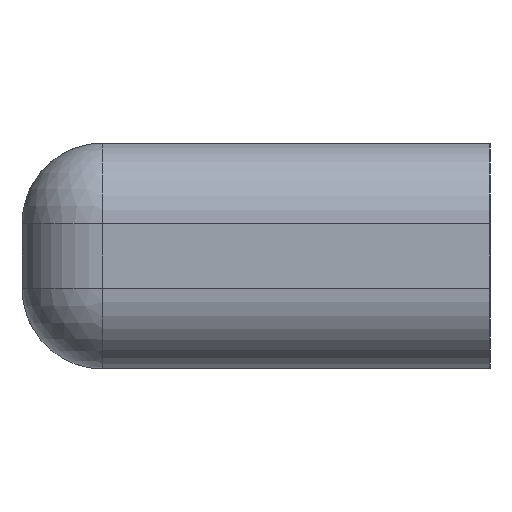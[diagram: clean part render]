
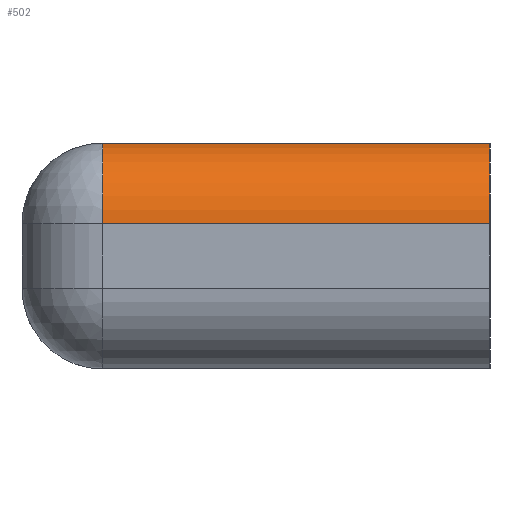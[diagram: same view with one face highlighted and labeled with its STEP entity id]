
A CAD part, left-side view. The second image highlights one B-rep face of the part: STEP entity #502.
In plain terms, the highlighted cylindrical face has radius 5 mm (diameter 10 mm), a partial arc.
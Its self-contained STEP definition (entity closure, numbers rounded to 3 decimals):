
#2 = CARTESIAN_POINT ( 'NONE',  ( -53.5, 9.5, 9. ) ) ;
#9 = CARTESIAN_POINT ( 'NONE',  ( -48.5, 0., 14. ) ) ;
#67 = VERTEX_POINT ( 'NONE', #901 ) ;
#90 = LINE ( 'NONE', #610, #1009 ) ;
#163 = CYLINDRICAL_SURFACE ( 'NONE', #720, 5. ) ;
#175 = VERTEX_POINT ( 'NONE', #910 ) ;
#194 = CIRCLE ( 'NONE', #341, 5. ) ;
#226 = CARTESIAN_POINT ( 'NONE',  ( -48.5, 0., 9. ) ) ;
#233 = DIRECTION ( 'NONE',  ( 0., 1., 0. ) ) ;
#262 = ORIENTED_EDGE ( 'NONE', *, *, #1058, .F. ) ;
#267 = ORIENTED_EDGE ( 'NONE', *, *, #633, .F. ) ;
#273 = DIRECTION ( 'NONE',  ( 0., 0., 1. ) ) ;
#325 = DIRECTION ( 'NONE',  ( 0., -1., 0. ) ) ;
#339 = CIRCLE ( 'NONE', #375, 5. ) ;
#341 = AXIS2_PLACEMENT_3D ( 'NONE', #345, #521, #273 ) ;
#345 = CARTESIAN_POINT ( 'NONE',  ( -48.5, -14.5, 9. ) ) ;
#375 = AXIS2_PLACEMENT_3D ( 'NONE', #416, #233, #832 ) ;
#416 = CARTESIAN_POINT ( 'NONE',  ( -48.5, 9.5, 9. ) ) ;
#424 = VERTEX_POINT ( 'NONE', #1012 ) ;
#440 = LINE ( 'NONE', #9, #1044 ) ;
#460 = EDGE_CURVE ( 'NONE', #978, #424, #339, .T. ) ;
#502 = ADVANCED_FACE ( 'NONE', ( #1101 ), #163, .T. ) ;
#518 = DIRECTION ( 'NONE',  ( 0., -1., 0. ) ) ;
#520 = ORIENTED_EDGE ( 'NONE', *, *, #1070, .F. ) ;
#521 = DIRECTION ( 'NONE',  ( 0., -1., 0. ) ) ;
#610 = CARTESIAN_POINT ( 'NONE',  ( -53.5, -14.5, 9. ) ) ;
#633 = EDGE_CURVE ( 'NONE', #424, #175, #440, .T. ) ;
#714 = ORIENTED_EDGE ( 'NONE', *, *, #460, .F. ) ;
#720 = AXIS2_PLACEMENT_3D ( 'NONE', #226, #325, #940 ) ;
#832 = DIRECTION ( 'NONE',  ( 0., 0., 1. ) ) ;
#901 = CARTESIAN_POINT ( 'NONE',  ( -53.5, -14.5, 9. ) ) ;
#910 = CARTESIAN_POINT ( 'NONE',  ( -48.5, -14.5, 14. ) ) ;
#940 = DIRECTION ( 'NONE',  ( 0., 0., -1. ) ) ;
#978 = VERTEX_POINT ( 'NONE', #2 ) ;
#1009 = VECTOR ( 'NONE', #1117, 1000. ) ;
#1012 = CARTESIAN_POINT ( 'NONE',  ( -48.5, 9.5, 14. ) ) ;
#1044 = VECTOR ( 'NONE', #518, 1000. ) ;
#1058 = EDGE_CURVE ( 'NONE', #67, #978, #90, .T. ) ;
#1070 = EDGE_CURVE ( 'NONE', #175, #67, #194, .T. ) ;
#1101 = FACE_OUTER_BOUND ( 'NONE', #1116, .T. ) ;
#1116 = EDGE_LOOP ( 'NONE', ( #520, #267, #714, #262 ) ) ;
#1117 = DIRECTION ( 'NONE',  ( 0., 1., 0. ) ) ;
